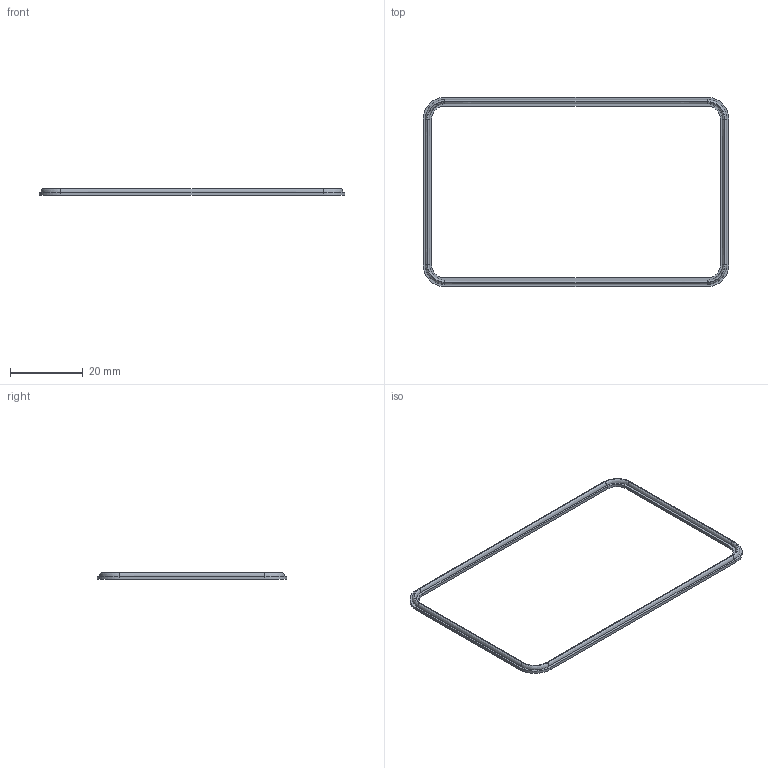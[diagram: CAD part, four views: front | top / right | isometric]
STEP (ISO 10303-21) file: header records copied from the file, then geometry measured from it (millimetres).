
FILE_DESCRIPTION(('FreeCAD Model'),'2;1');
FILE_NAME('Open CASCADE Shape Model','2026-09-29T21:45:22',('Author'),( ''),'Open CASCADE STEP processor 7.8','FreeCAD','Unknown');
FILE_SCHEMA(('AUTOMOTIVE_DESIGN { 1 0 10303 214 1 1 1 1 }'));
Length unit declared in the file: millimetre
Products named in the file (1): lid_gasket
Bounding box: 84 x 52 x 1.8 mm (x, y, z)
Volume: 727.6 mm3; surface area: 1970.7 mm2
Topology: 1 solids, 1 shells, 36 faces, 96 edges, 64 vertices
Faces by surface type: bspline 16, plane 12, cylinder 8
Entity records: 2138 total; most frequent: CARTESIAN_POINT 1381, ORIENTED_EDGE 192, DIRECTION 106, EDGE_CURVE 96, VERTEX_POINT 64, FACE_BOUND 40, EDGE_LOOP 40, AXIS2_PLACEMENT_3D 37
